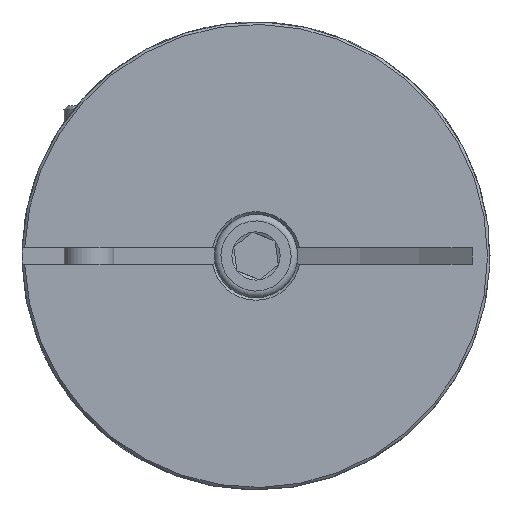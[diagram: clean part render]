
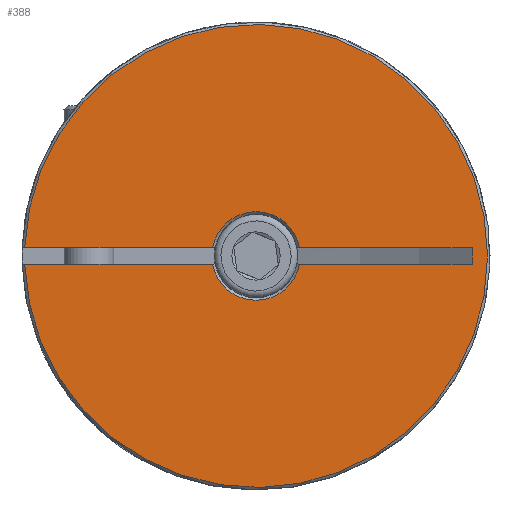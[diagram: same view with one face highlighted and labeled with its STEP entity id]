
A CAD part, left-side view. The second image highlights one B-rep face of the part: STEP entity #388.
In plain terms, the highlighted planar face has unit normal (-1, 0, 0) as drawn and (0, 0, 1) by its records, which use the part's own axes.
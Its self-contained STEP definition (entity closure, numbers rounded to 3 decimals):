
#388 = ADVANCED_FACE( 'NONE', ( #796 ), #797, .T. );
#796 = FACE_OUTER_BOUND( '', #1182, .T. );
#797 = PLANE( '', #1183 );
#1182 = EDGE_LOOP( '', ( #1827, #1828, #1829, #1830, #1831, #1832, #1833, #1834 ) );
#1183 = AXIS2_PLACEMENT_3D( '', #1835, #1836, #1837 );
#1827 = ORIENTED_EDGE( '', *, *, #2099, .F. );
#1828 = ORIENTED_EDGE( '', *, *, #2042, .T. );
#1829 = ORIENTED_EDGE( '', *, *, #1932, .T. );
#1830 = ORIENTED_EDGE( '', *, *, #2013, .T. );
#1831 = ORIENTED_EDGE( '', *, *, #2017, .T. );
#1832 = ORIENTED_EDGE( '', *, *, #2091, .F. );
#1833 = ORIENTED_EDGE( '', *, *, #2106, .F. );
#1834 = ORIENTED_EDGE( '', *, *, #1956, .T. );
#1835 = CARTESIAN_POINT( '', ( 0., 0., 24.5 ) );
#1836 = DIRECTION( '', ( 0., 0., 1. ) );
#1837 = DIRECTION( '', ( 1., 0., 0. ) );
#1932 = EDGE_CURVE( 'NONE', #2204, #2205, #2206, .T. );
#1956 = EDGE_CURVE( 'NONE', #2245, #2242, #2246, .F. );
#2013 = EDGE_CURVE( 'NONE', #2205, #2328, #2331, .F. );
#2017 = EDGE_CURVE( 'NONE', #2328, #2335, #2336, .T. );
#2042 = EDGE_CURVE( 'NONE', #2371, #2204, #2372, .T. );
#2091 = EDGE_CURVE( 'NONE', #2432, #2335, #2433, .F. );
#2099 = EDGE_CURVE( 'NONE', #2371, #2242, #2442, .F. );
#2106 = EDGE_CURVE( 'NONE', #2245, #2432, #2449, .F. );
#2204 = VERTEX_POINT( 'NONE', #2570 );
#2205 = VERTEX_POINT( 'NONE', #2571 );
#2206 = LINE( '', #2572, #2573 );
#2242 = VERTEX_POINT( 'NONE', #2617 );
#2245 = VERTEX_POINT( 'NONE', #2623 );
#2246 = CIRCLE( '', #2624, 5.3 );
#2328 = VERTEX_POINT( 'NONE', #2803 );
#2331 = CIRCLE( '', #2809, 5.3 );
#2335 = VERTEX_POINT( 'NONE', #2813 );
#2336 = LINE( '', #2814, #2815 );
#2371 = VERTEX_POINT( 'NONE', #2859 );
#2372 = CIRCLE( '', #2860, 27.7 );
#2432 = VERTEX_POINT( 'NONE', #3012 );
#2433 = LINE( '', #3013, #3014 );
#2442 = LINE( '', #3023, #3024 );
#2449 = LINE( '', #3031, #3032 );
#2570 = CARTESIAN_POINT( '', ( 27.682, -1., 24.5 ) );
#2571 = CARTESIAN_POINT( '', ( 5.205, -1., 24.5 ) );
#2572 = CARTESIAN_POINT( '', ( 0., -1., 24.5 ) );
#2573 = VECTOR( '', #3136, 1000. );
#2617 = CARTESIAN_POINT( '', ( 5.205, 1., 24.5 ) );
#2623 = CARTESIAN_POINT( '', ( -5.205, 1., 24.5 ) );
#2624 = AXIS2_PLACEMENT_3D( '', #3172, #3173, #3174 );
#2803 = CARTESIAN_POINT( '', ( -5.205, -1., 24.5 ) );
#2809 = AXIS2_PLACEMENT_3D( '', #3250, #3251, #3252 );
#2813 = CARTESIAN_POINT( '', ( -25.849, -1., 24.5 ) );
#2814 = CARTESIAN_POINT( '', ( 0., -1., 24.5 ) );
#2815 = VECTOR( '', #3256, 1000. );
#2859 = CARTESIAN_POINT( '', ( 27.682, 1., 24.5 ) );
#2860 = AXIS2_PLACEMENT_3D( '', #3290, #3291, #3292 );
#3012 = CARTESIAN_POINT( '', ( -25.849, 1., 24.5 ) );
#3013 = CARTESIAN_POINT( '', ( -25.849, -1., 24.5 ) );
#3014 = VECTOR( '', #3334, 1000. );
#3023 = CARTESIAN_POINT( '', ( 17., 1., 24.5 ) );
#3024 = VECTOR( '', #3341, 1000. );
#3031 = CARTESIAN_POINT( '', ( 17., 1., 24.5 ) );
#3032 = VECTOR( '', #3345, 1000. );
#3136 = DIRECTION( '', ( -1., 0., 0. ) );
#3172 = CARTESIAN_POINT( '', ( 0., 0., 24.5 ) );
#3173 = DIRECTION( '', ( 0., 0., 1. ) );
#3174 = DIRECTION( '', ( 1., 0., 0. ) );
#3250 = CARTESIAN_POINT( '', ( 0., 0., 24.5 ) );
#3251 = DIRECTION( '', ( 0., 0., 1. ) );
#3252 = DIRECTION( '', ( 1., 0., 0. ) );
#3256 = DIRECTION( '', ( -1., 0., 0. ) );
#3290 = CARTESIAN_POINT( '', ( 0., 0., 24.5 ) );
#3291 = DIRECTION( '', ( 0., 0., 1. ) );
#3292 = DIRECTION( '', ( 1., 0., 0. ) );
#3334 = DIRECTION( '', ( 0., 1., 0. ) );
#3341 = DIRECTION( '', ( 1., 0., 0. ) );
#3345 = DIRECTION( '', ( 1., 0., 0. ) );
